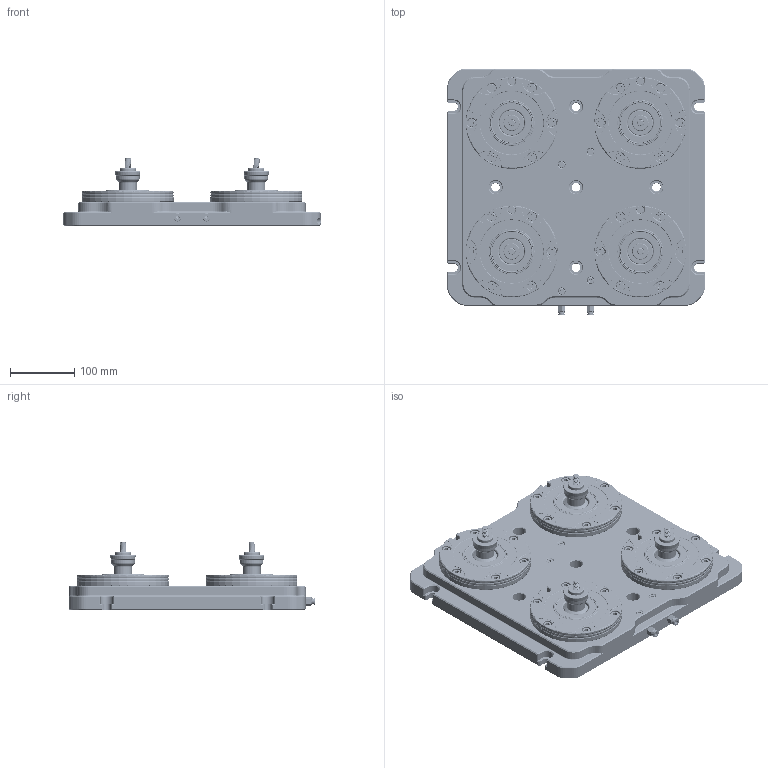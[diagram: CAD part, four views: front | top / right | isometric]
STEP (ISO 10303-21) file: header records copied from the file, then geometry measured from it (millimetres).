
FILE_DESCRIPTION(/* description */ (''),/* implementation_level */ '2;1');
FILE_NAME(/* name */ 'KSZ115-T4.stp',/* time_stamp */ '2024-06-07T14:56:05+08:00',/* author */ (''),/* organization */ (''),/* preprocessor_version */ 'ST-DEVELOPER v20',/* originating_system */ 'SIEMENS PLM Software NX2312.1700',/* authorisation */ '');
FILE_SCHEMA (('AUTOMOTIVE_DESIGN { 1 0 10303 214 3 1 1 1 }'));
Products named in the file (1): KSZ115-T4_x_t_objects
Bounding box: 400 x 382.82 x 105.5 mm (x, y, z)
Volume: 5486296.1 mm3; surface area: 946020.4 mm2
Topology: 43 solids, 51 shells, 5065 faces, 12954 edges, 8388 vertices
Faces by surface type: plane 2193, extrusion 1016, cylinder 924, cone 469, torus 230, bspline 193, sphere 40
Full cylindrical faces by diameter (mm): 0.5 x4, 3 x16, 4.3 x2, 4.5 x2, 5 x46, 5.1 x32, 5.8 x2, 6.8 x198, 7 x4, 8 x2, 8.5 x24, 8.6 x2, 9.7 x4, 9.728 x2, 10 x88, 10.5 x52, 11.7 x2, 12 x32, 13 x5, 14 x24, 15 x60, 18 x4, 20 x5, 25 x4, 28 x4, 36.952 x8, 37.51 x4, 52 x12, 55.4 x4, 64 x12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
Entity records: 423547 total; most frequent: CARTESIAN_POINT 301684, ORIENTED_EDGE 20732, DIRECTION 17072, EDGE_CURVE 10366, VERTEX_POINT 7162, VECTOR 6736, EDGE_LOOP 6037, LINE 5720
